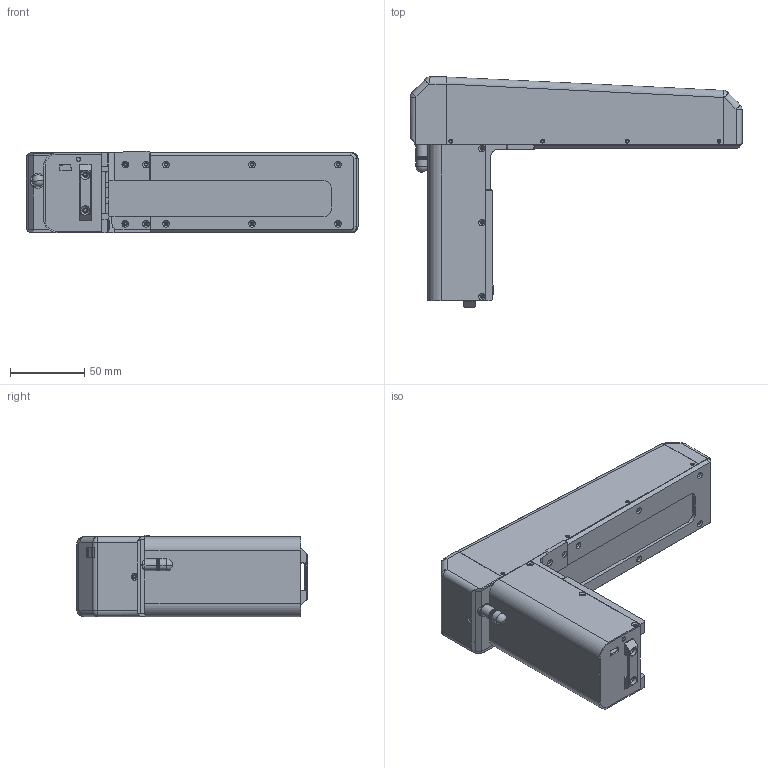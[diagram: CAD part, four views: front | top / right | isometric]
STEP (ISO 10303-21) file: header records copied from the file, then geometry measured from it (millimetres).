
FILE_DESCRIPTION (( 'STEP AP203' ), '1' );
FILE_NAME ('Ñåðèÿ ÈÊÏ DEMO.STEP', '2020-09-25T07:46:54', ( 'user' ), ( 'Ref' ), 'SwSTEP 2.0', 'SolidWorks 2015', '' );
FILE_SCHEMA (( 'CONFIG_CONTROL_DESIGN' ));
Length unit declared in the file: millimetre
Products named in the file (25): 枟蝂鼏砎隮; 俶 505.60 鍛樇魡; Êîðïóñ ïîä íîâûé àêêóì; Âèíò_Ì3x8 â ïîòàé; 妈眚_󉞁0_鲨腠漯; Øëåéô_êàðåòêà 505.50; Âòóëêà äëÿ àíòåííû; Ìàãíèòíàÿ ïëàñòèíà ïîä íîâûé àêêóì; 俶 505.60.019; 栱殣鍒鍱; Ïëàñòèíà ìàãíèòíàÿ çàäíÿÿ 2 ïîä íîâûé àêêóì; 俶 505.60 嚦樏鋋; Ñåðèÿ ÈÊÏ DEMO; Óãîëîê îïîðíûé ëåâûé ïðîô ñ ëàïêîé øèðîêèé; 俶 505.60.018; 俶.505.60.012; Óãîëîê îïîðíûé ïðàâûé ïðîô ñ ëàïêîé øèðîêèé; Êîæóõ ðóêîÿòêè ïîä íîâûé àêêóì; Âèíò_Ì2õ4; 俶.041.00.036; ﾀ炅褊浯 韈 ﾋ頸糺; 俶.041.00.016-01; 砎閷麠縺; 俶 505.60.004; 俶.041.00.016
Assembly tree (37 placements, depth 2):
  Ñåðèÿ ÈÊÏ DEMO
    俶.505.60.012
    Âèíò_Ì2õ4  x2
    俶.041.00.016-01
    俶.041.00.016
    Êîðïóñ ïîä íîâûé àêêóì
    Øëåéô_êàðåòêà 505.50
    俶 505.60.019
    俶 505.60 嚦樏鋋
    俶 505.60.018
    Êîæóõ ðóêîÿòêè ïîä íîâûé àêêóì
    ﾀ炅褊浯 韈 ﾋ頸糺
    俶 505.60.004
    俶 505.60 鍛樇魡
    妈眚_󉞁0_鲨腠漯
    Ìàãíèòíàÿ ïëàñòèíà ïîä íîâûé àêêóì
    Ïëàñòèíà ìàãíèòíàÿ çàäíÿÿ 2 ïîä íîâûé àêêóì
    Óãîëîê îïîðíûé ëåâûé ïðîô ñ ëàïêîé øèðîêèé
    Óãîëîê îïîðíûé ïðàâûé ïðîô ñ ëàïêîé øèðîêèé
    俶.041.00.036  x2
    砎閷麠縺
    枟蝂鼏砎隮  x6
    Âèíò_Ì3x8 â ïîòàé  x7
    Âòóëêà äëÿ àíòåííû
    栱殣鍒鍱
Bounding box: 224 x 155.5 x 55 mm (x, y, z)
Volume: 174694.9 mm3; surface area: 194571.9 mm2
Topology: 38 solids, 38 shells, 1091 faces, 2843 edges, 1819 vertices
Faces by surface type: plane 498, cylinder 410, cone 153, torus 18, bspline 8, sphere 4
Entity records: 32875 total; most frequent: CARTESIAN_POINT 5673, DIRECTION 5219, ORIENTED_EDGE 4930, EDGE_CURVE 2465, AXIS2_PLACEMENT_3D 1855, VERTEX_POINT 1595, LINE 1509, VECTOR 1509
